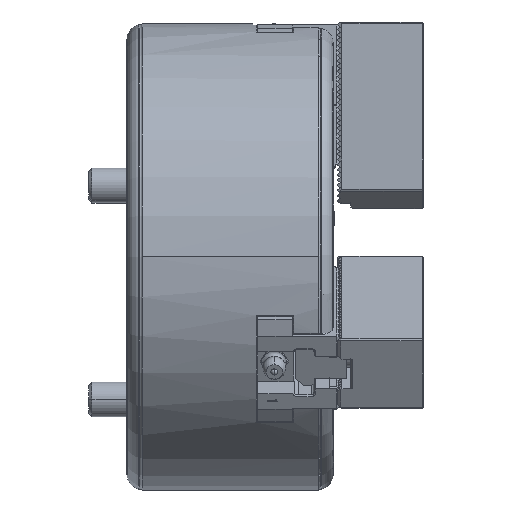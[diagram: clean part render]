
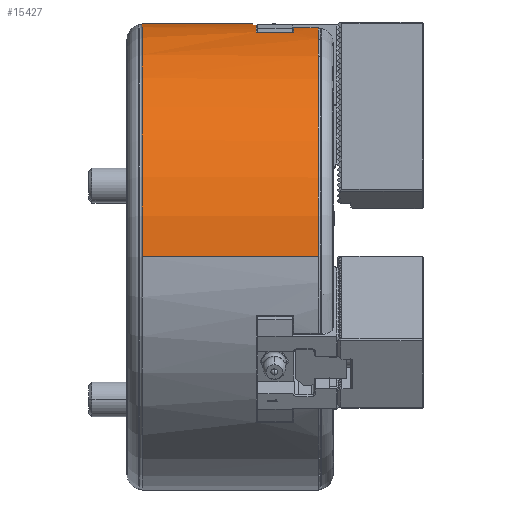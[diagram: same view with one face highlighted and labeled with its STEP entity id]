
A CAD part, top view. The second image highlights one B-rep face of the part: STEP entity #15427.
In plain terms, the highlighted cylindrical face has radius 67.5 mm (diameter 135 mm), a partial arc.
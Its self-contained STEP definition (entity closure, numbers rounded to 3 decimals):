
#557 = DIRECTION ( 'NONE',  ( 0., 1., 0. ) ) ;
#810 = EDGE_CURVE ( 'NONE', #47678, #83210, #35020, .T. ) ;
#1509 = DIRECTION ( 'NONE',  ( 1., 0., 0. ) ) ;
#1833 = CARTESIAN_POINT ( 'NONE',  ( 0., 0., 67.5 ) ) ;
#4917 = EDGE_CURVE ( 'NONE', #49491, #54543, #30999, .T. ) ;
#5305 = VECTOR ( 'NONE', #6968, 1000. ) ;
#6442 = VERTEX_POINT ( 'NONE', #29074 ) ;
#6563 = DIRECTION ( 'NONE',  ( 0., 0., -1. ) ) ;
#6968 = DIRECTION ( 'NONE',  ( 1., 0., 0. ) ) ;
#7548 = AXIS2_PLACEMENT_3D ( 'NONE', #29586, #1509, #557 ) ;
#7779 = DIRECTION ( 'NONE',  ( 0., 1., 0. ) ) ;
#8699 = DIRECTION ( 'NONE',  ( 0., 0., 1. ) ) ;
#8932 = CARTESIAN_POINT ( 'NONE',  ( -11.6, 65.103, 17.827 ) ) ;
#10667 = AXIS2_PLACEMENT_3D ( 'NONE', #62912, #29466, #14738 ) ;
#11874 = VERTEX_POINT ( 'NONE', #32295 ) ;
#12395 = CARTESIAN_POINT ( 'NONE',  ( -4.5, 0., 67.5 ) ) ;
#12628 = CIRCLE ( 'NONE', #23232, 67.5 ) ;
#13379 = VERTEX_POINT ( 'NONE', #8932 ) ;
#13585 = CIRCLE ( 'NONE', #7548, 67.5 ) ;
#13859 = VERTEX_POINT ( 'NONE', #62341 ) ;
#14393 = LINE ( 'NONE', #79233, #28785 ) ;
#14738 = DIRECTION ( 'NONE',  ( 0., 1., 0. ) ) ;
#15427 = ADVANCED_FACE ( 'NONE', ( #54056 ), #83111, .T. ) ;
#15854 = EDGE_CURVE ( 'NONE', #57021, #36322, #12628, .T. ) ;
#16470 = CARTESIAN_POINT ( 'NONE',  ( 0., 66.316, 12.588 ) ) ;
#16493 = DIRECTION ( 'NONE',  ( 1., 0., 0. ) ) ;
#17925 = DIRECTION ( 'NONE',  ( 0., 0., 1. ) ) ;
#19476 = VECTOR ( 'NONE', #41071, 1000. ) ;
#20382 = VERTEX_POINT ( 'NONE', #24465 ) ;
#20831 = CARTESIAN_POINT ( 'NONE',  ( -4.5, 66.316, -12.588 ) ) ;
#21740 = CARTESIAN_POINT ( 'NONE',  ( -55.5, 67.5, 0. ) ) ;
#21752 = CARTESIAN_POINT ( 'NONE',  ( -22.4, 0., 0. ) ) ;
#21773 = ORIENTED_EDGE ( 'NONE', *, *, #45302, .T. ) ;
#22218 = DIRECTION ( 'NONE',  ( -1., 0., 0. ) ) ;
#22289 = ORIENTED_EDGE ( 'NONE', *, *, #94288, .T. ) ;
#22297 = CARTESIAN_POINT ( 'NONE',  ( -4.5, 66.316, 12.588 ) ) ;
#22934 = DIRECTION ( 'NONE',  ( 1., 0., 0. ) ) ;
#23232 = AXIS2_PLACEMENT_3D ( 'NONE', #52556, #59221, #8699 ) ;
#23329 = ORIENTED_EDGE ( 'NONE', *, *, #68583, .F. ) ;
#23564 = ORIENTED_EDGE ( 'NONE', *, *, #810, .F. ) ;
#24465 = CARTESIAN_POINT ( 'NONE',  ( -22.4, 65.103, 17.827 ) ) ;
#25325 = CARTESIAN_POINT ( 'NONE',  ( -22.7, 67.088, 7.444 ) ) ;
#25539 = AXIS2_PLACEMENT_3D ( 'NONE', #77484, #54635, #17925 ) ;
#26264 = CARTESIAN_POINT ( 'NONE',  ( -11.6, 65.103, -17.827 ) ) ;
#27595 = DIRECTION ( 'NONE',  ( 1., 0., 0. ) ) ;
#27869 = ORIENTED_EDGE ( 'NONE', *, *, #57469, .T. ) ;
#27897 = DIRECTION ( 'NONE',  ( 0., 0., -1. ) ) ;
#28785 = VECTOR ( 'NONE', #22934, 1000. ) ;
#29074 = CARTESIAN_POINT ( 'NONE',  ( -22.4, 65.103, -17.827 ) ) ;
#29466 = DIRECTION ( 'NONE',  ( 1., 0., 0. ) ) ;
#29586 = CARTESIAN_POINT ( 'NONE',  ( -4.5, 0., 0. ) ) ;
#29707 = EDGE_CURVE ( 'NONE', #36322, #83210, #48926, .T. ) ;
#30999 = CIRCLE ( 'NONE', #38652, 67.5 ) ;
#31414 = VERTEX_POINT ( 'NONE', #58408 ) ;
#31947 = LINE ( 'NONE', #75334, #72732 ) ;
#32150 = DIRECTION ( 'NONE',  ( 0., 1., 0. ) ) ;
#32295 = CARTESIAN_POINT ( 'NONE',  ( -22.4, 67.088, -7.444 ) ) ;
#32618 = DIRECTION ( 'NONE',  ( 1., 0., 0. ) ) ;
#33329 = CARTESIAN_POINT ( 'NONE',  ( 0., 65.103, -17.827 ) ) ;
#34229 = ORIENTED_EDGE ( 'NONE', *, *, #15854, .T. ) ;
#34375 = LINE ( 'NONE', #25325, #19476 ) ;
#34761 = LINE ( 'NONE', #33329, #36958 ) ;
#34909 = EDGE_CURVE ( 'NONE', #6442, #57021, #34761, .T. ) ;
#35020 = CIRCLE ( 'NONE', #10667, 67.5 ) ;
#36322 = VERTEX_POINT ( 'NONE', #72189 ) ;
#36958 = VECTOR ( 'NONE', #27595, 1000. ) ;
#37428 = LINE ( 'NONE', #16470, #44593 ) ;
#38652 = AXIS2_PLACEMENT_3D ( 'NONE', #79750, #44005, #7779 ) ;
#41071 = DIRECTION ( 'NONE',  ( 1., 0., 0. ) ) ;
#42053 = EDGE_CURVE ( 'NONE', #80310, #13859, #34375, .T. ) ;
#43182 = CARTESIAN_POINT ( 'NONE',  ( 0., 66.316, -12.588 ) ) ;
#44005 = DIRECTION ( 'NONE',  ( 1., 0., 0. ) ) ;
#44593 = VECTOR ( 'NONE', #45557, 1000. ) ;
#44835 = CARTESIAN_POINT ( 'NONE',  ( -55.5, 0., 67.5 ) ) ;
#45302 = EDGE_CURVE ( 'NONE', #20382, #13859, #85620, .T. ) ;
#45557 = DIRECTION ( 'NONE',  ( -1., 0., 0. ) ) ;
#45579 = DIRECTION ( 'NONE',  ( 0., 0., 1. ) ) ;
#46924 = CARTESIAN_POINT ( 'NONE',  ( 0., 0., 0. ) ) ;
#47678 = VERTEX_POINT ( 'NONE', #73205 ) ;
#48926 = LINE ( 'NONE', #43182, #5305 ) ;
#49491 = VERTEX_POINT ( 'NONE', #65761 ) ;
#50725 = VECTOR ( 'NONE', #81411, 1000. ) ;
#51397 = EDGE_CURVE ( 'NONE', #11874, #6442, #77108, .T. ) ;
#52556 = CARTESIAN_POINT ( 'NONE',  ( -11.6, 0., 0. ) ) ;
#52936 = VERTEX_POINT ( 'NONE', #22297 ) ;
#53074 = ORIENTED_EDGE ( 'NONE', *, *, #68506, .F. ) ;
#54056 = FACE_OUTER_BOUND ( 'NONE', #63651, .T. ) ;
#54363 = ORIENTED_EDGE ( 'NONE', *, *, #66751, .F. ) ;
#54543 = VERTEX_POINT ( 'NONE', #21740 ) ;
#54548 = EDGE_CURVE ( 'NONE', #73937, #13379, #60514, .T. ) ;
#54635 = DIRECTION ( 'NONE',  ( 1., 0., 0. ) ) ;
#55844 = AXIS2_PLACEMENT_3D ( 'NONE', #86061, #86975, #27897 ) ;
#55903 = ORIENTED_EDGE ( 'NONE', *, *, #79294, .F. ) ;
#56301 = VERTEX_POINT ( 'NONE', #44835 ) ;
#57021 = VERTEX_POINT ( 'NONE', #26264 ) ;
#57437 = CIRCLE ( 'NONE', #75638, 67.5 ) ;
#57469 = EDGE_CURVE ( 'NONE', #13379, #20382, #85260, .T. ) ;
#58222 = AXIS2_PLACEMENT_3D ( 'NONE', #21752, #22218, #6563 ) ;
#58408 = CARTESIAN_POINT ( 'NONE',  ( -23.4, 67.088, -7.444 ) ) ;
#59221 = DIRECTION ( 'NONE',  ( 1., 0., 0. ) ) ;
#60514 = CIRCLE ( 'NONE', #60593, 67.5 ) ;
#60593 = AXIS2_PLACEMENT_3D ( 'NONE', #74147, #16493, #45579 ) ;
#61184 = DIRECTION ( 'NONE',  ( 1., 0., 0. ) ) ;
#62341 = CARTESIAN_POINT ( 'NONE',  ( -22.4, 67.088, 7.444 ) ) ;
#62912 = CARTESIAN_POINT ( 'NONE',  ( -4.5, 0., 0. ) ) ;
#63651 = EDGE_LOOP ( 'NONE', ( #75279, #22289, #93424, #23329, #88205, #81588, #27869, #21773, #71047, #54363, #55903, #64717, #87487, #34229, #75330, #23564, #53074 ) ) ;
#63828 = DIRECTION ( 'NONE',  ( -1., 0., 0. ) ) ;
#64717 = ORIENTED_EDGE ( 'NONE', *, *, #51397, .T. ) ;
#65174 = CIRCLE ( 'NONE', #25539, 67.5 ) ;
#65761 = CARTESIAN_POINT ( 'NONE',  ( -55.5, 0., -67.5 ) ) ;
#65901 = VERTEX_POINT ( 'NONE', #12395 ) ;
#66751 = EDGE_CURVE ( 'NONE', #31414, #80310, #65174, .T. ) ;
#67737 = DIRECTION ( 'NONE',  ( -1., 0., 0. ) ) ;
#68506 = EDGE_CURVE ( 'NONE', #49491, #47678, #14393, .T. ) ;
#68583 = EDGE_CURVE ( 'NONE', #52936, #65901, #13585, .T. ) ;
#69339 = CARTESIAN_POINT ( 'NONE',  ( -55.5, 0., 0. ) ) ;
#70972 = CARTESIAN_POINT ( 'NONE',  ( 0., 65.103, 17.827 ) ) ;
#71047 = ORIENTED_EDGE ( 'NONE', *, *, #42053, .F. ) ;
#72189 = CARTESIAN_POINT ( 'NONE',  ( -11.6, 66.316, -12.588 ) ) ;
#72237 = EDGE_CURVE ( 'NONE', #52936, #73937, #37428, .T. ) ;
#72732 = VECTOR ( 'NONE', #67737, 1000. ) ;
#72903 = EDGE_CURVE ( 'NONE', #56301, #65901, #82350, .T. ) ;
#73205 = CARTESIAN_POINT ( 'NONE',  ( -4.5, 0., -67.5 ) ) ;
#73937 = VERTEX_POINT ( 'NONE', #84467 ) ;
#74147 = CARTESIAN_POINT ( 'NONE',  ( -11.6, 0., 0. ) ) ;
#74993 = CARTESIAN_POINT ( 'NONE',  ( -23.4, 67.088, 7.444 ) ) ;
#75279 = ORIENTED_EDGE ( 'NONE', *, *, #4917, .T. ) ;
#75330 = ORIENTED_EDGE ( 'NONE', *, *, #29707, .T. ) ;
#75334 = CARTESIAN_POINT ( 'NONE',  ( -22.7, 67.088, -7.444 ) ) ;
#75638 = AXIS2_PLACEMENT_3D ( 'NONE', #69339, #32618, #32150 ) ;
#77108 = CIRCLE ( 'NONE', #55844, 67.5 ) ;
#77484 = CARTESIAN_POINT ( 'NONE',  ( -23.4, 0., 0. ) ) ;
#79233 = CARTESIAN_POINT ( 'NONE',  ( 0., 0., -67.5 ) ) ;
#79294 = EDGE_CURVE ( 'NONE', #11874, #31414, #31947, .T. ) ;
#79750 = CARTESIAN_POINT ( 'NONE',  ( -55.5, 0., 0. ) ) ;
#80310 = VERTEX_POINT ( 'NONE', #74993 ) ;
#80818 = VECTOR ( 'NONE', #63828, 1000. ) ;
#81411 = DIRECTION ( 'NONE',  ( 1., 0., 0. ) ) ;
#81588 = ORIENTED_EDGE ( 'NONE', *, *, #54548, .T. ) ;
#82350 = LINE ( 'NONE', #1833, #50725 ) ;
#83111 = CYLINDRICAL_SURFACE ( 'NONE', #91736, 67.5 ) ;
#83210 = VERTEX_POINT ( 'NONE', #20831 ) ;
#84467 = CARTESIAN_POINT ( 'NONE',  ( -11.6, 66.316, 12.588 ) ) ;
#85260 = LINE ( 'NONE', #70972, #80818 ) ;
#85620 = CIRCLE ( 'NONE', #58222, 67.5 ) ;
#86061 = CARTESIAN_POINT ( 'NONE',  ( -22.4, 0., 0. ) ) ;
#86975 = DIRECTION ( 'NONE',  ( -1., 0., 0. ) ) ;
#87487 = ORIENTED_EDGE ( 'NONE', *, *, #34909, .T. ) ;
#88205 = ORIENTED_EDGE ( 'NONE', *, *, #72237, .T. ) ;
#88373 = DIRECTION ( 'NONE',  ( 0., 0., -1. ) ) ;
#91736 = AXIS2_PLACEMENT_3D ( 'NONE', #46924, #61184, #88373 ) ;
#93424 = ORIENTED_EDGE ( 'NONE', *, *, #72903, .T. ) ;
#94288 = EDGE_CURVE ( 'NONE', #54543, #56301, #57437, .T. ) ;
